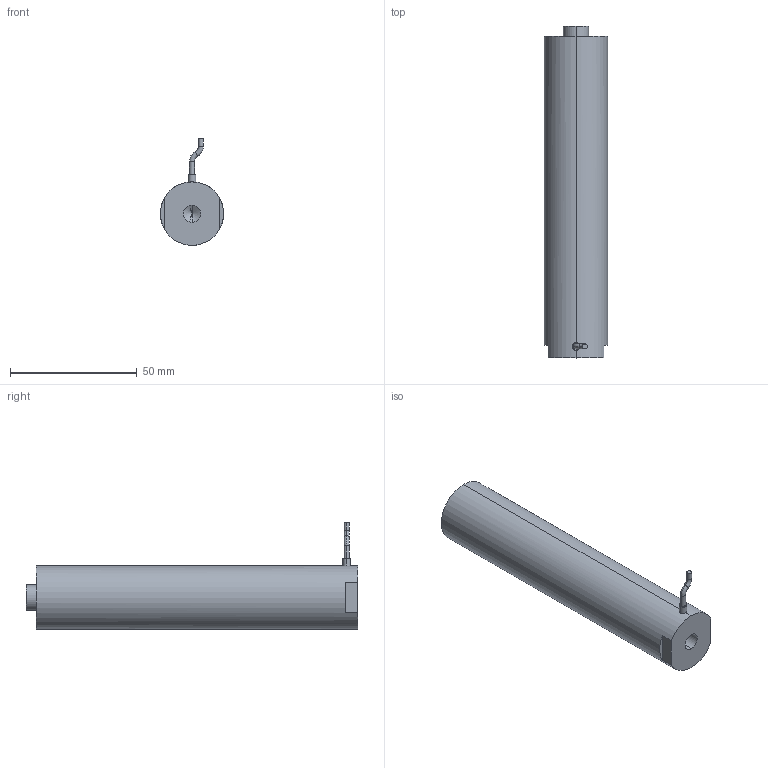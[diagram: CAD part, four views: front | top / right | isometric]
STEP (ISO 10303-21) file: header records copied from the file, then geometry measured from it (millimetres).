
FILE_DESCRIPTION (( 'STEP AP203' ), '1' );
FILE_NAME ('ﾆｽﾍｷﾊｽ120VS25.STEP', '2021-07-08T07:32:05', ( 'ﾎ｢ﾈ橆ﾃｻｧ' ), ( 'ﾎ｢ﾈ晥ｫﾋｾ' ), 'SwSTEP 2.0', 'SolidWorks 2016', '' );
FILE_SCHEMA (( 'CONFIG_CONTROL_DESIGN' ));
Length unit declared in the file: millimetre
Products named in the file (1): ƽͷʽ120VS25
Bounding box: 25 x 131 x 42.06 mm (x, y, z)
Volume: 62189.1 mm3; surface area: 11441.8 mm2
Topology: 1 solids, 1 shells, 947 faces, 2576 edges, 1713 vertices
Faces by surface type: bspline 517, plane 315, cylinder 109, torus 4, cone 2
Entity records: 44956 total; most frequent: CARTESIAN_POINT 25651, ORIENTED_EDGE 5148, EDGE_CURVE 2574, DIRECTION 1984, B_SPLINE_CURVE_WITH_KNOTS 1730, VERTEX_POINT 1713, EDGE_LOOP 1031, ADVANCED_FACE 947
